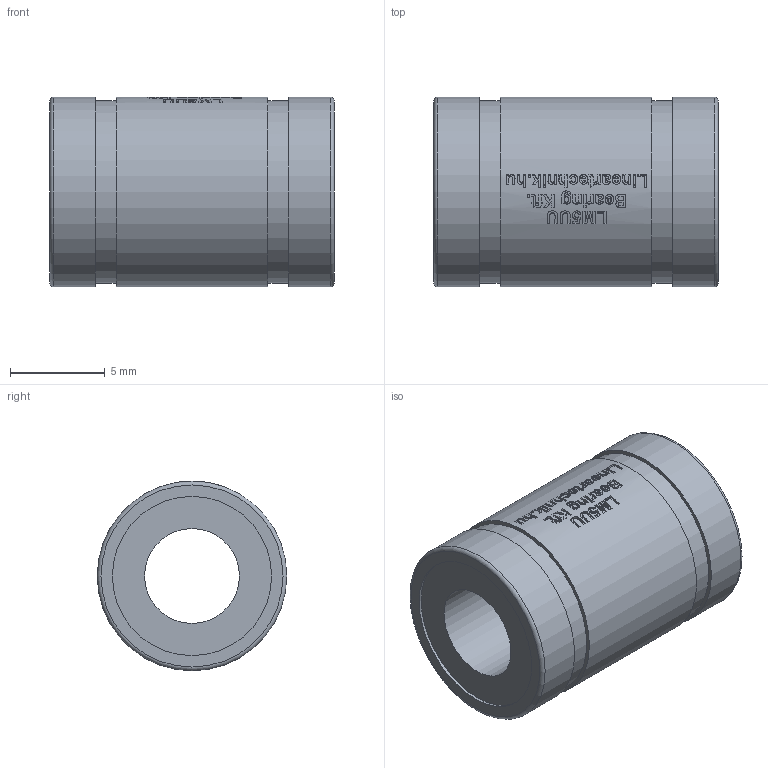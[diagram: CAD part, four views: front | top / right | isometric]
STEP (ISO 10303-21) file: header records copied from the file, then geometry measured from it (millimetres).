
FILE_DESCRIPTION(/* description */ ('Huosing for flange nuts'),/* implementation_level */ '2;1');
FILE_NAME(/* name */ 'LM5UU',/* time_stamp */ '2019-05-07T14:08:44+02:00',/* author */ ('VĂ©gh MĂˇtĂ©'),/* organization */ ('Bearing Kft'),/* preprocessor_version */ 'ST-DEVELOPER v16.7',/* originating_system */ 'DEX',/* authorisation */ $);
FILE_SCHEMA (('AUTOMOTIVE_DESIGN {1 0 10303 214 3 1 1}'));
Length unit declared in the file: millimetre
Products named in the file (1): LM5UU
Bounding box: 15 x 10 x 10 mm (x, y, z)
Volume: 858.3 mm3; surface area: 852.5 mm2
Topology: 1 solids, 1 shells, 303 faces, 760 edges, 507 vertices
Faces by surface type: plane 156, bspline 94, cylinder 51, torus 2
Full cylindrical faces by diameter (mm): 5 x1, 8.4 x2, 9.6 x2, 10 x3
Entity records: 13139 total; most frequent: CARTESIAN_POINT 6429, ORIENTED_EDGE 1486, DIRECTION 1108, EDGE_CURVE 743, VERTEX_POINT 502, LINE 408, VECTOR 408, EDGE_LOOP 365
